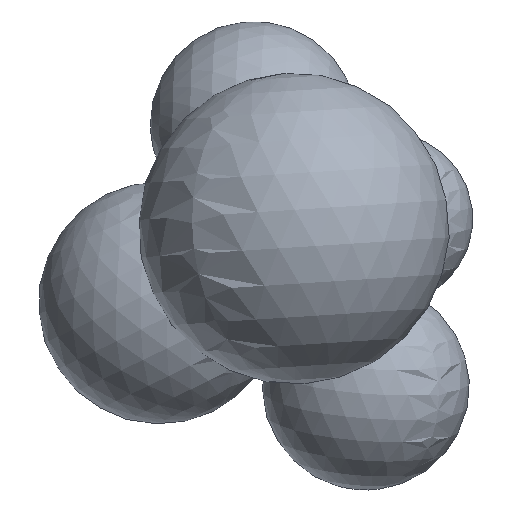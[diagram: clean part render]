
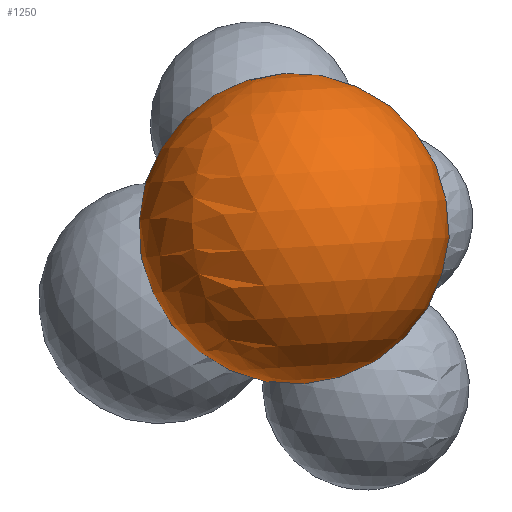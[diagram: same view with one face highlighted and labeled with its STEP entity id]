
A CAD part, front view. The second image highlights one B-rep face of the part: STEP entity #1250.
In plain terms, the highlighted spherical face has radius 90 mm.
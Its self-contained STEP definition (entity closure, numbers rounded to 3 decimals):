
#230 = SPHERICAL_SURFACE ( 'NONE', #4352, 90. ) ;
#1242 = EDGE_CURVE ( 'NONE', #1809, #1809, #4771, .T. ) ;
#1250 = ADVANCED_FACE ( 'NONE', ( #3074 ), #230, .T. ) ;
#1492 = CARTESIAN_POINT ( 'NONE',  ( 0., 89.038, 13.123 ) ) ;
#1675 = EDGE_LOOP ( 'NONE', ( #2625 ) ) ;
#1809 = VERTEX_POINT ( 'NONE', #1492 ) ;
#1825 = DIRECTION ( 'NONE',  ( 0., 0., 1. ) ) ;
#1854 = CARTESIAN_POINT ( 'NONE',  ( 0., 89.038, 0. ) ) ;
#2326 = DIRECTION ( 'NONE',  ( -1., 0., 0. ) ) ;
#2625 = ORIENTED_EDGE ( 'NONE', *, *, #1242, .F. ) ;
#3018 = AXIS2_PLACEMENT_3D ( 'NONE', #1854, #3437, #1825 ) ;
#3074 = FACE_OUTER_BOUND ( 'NONE', #1675, .T. ) ;
#3437 = DIRECTION ( 'NONE',  ( 0., 1., 0. ) ) ;
#3487 = CARTESIAN_POINT ( 'NONE',  ( 0., 0., 0. ) ) ;
#3824 = DIRECTION ( 'NONE',  ( 0., 0., 1. ) ) ;
#4352 = AXIS2_PLACEMENT_3D ( 'NONE', #3487, #3824, #2326 ) ;
#4771 = CIRCLE ( 'NONE', #3018, 13.123 ) ;
